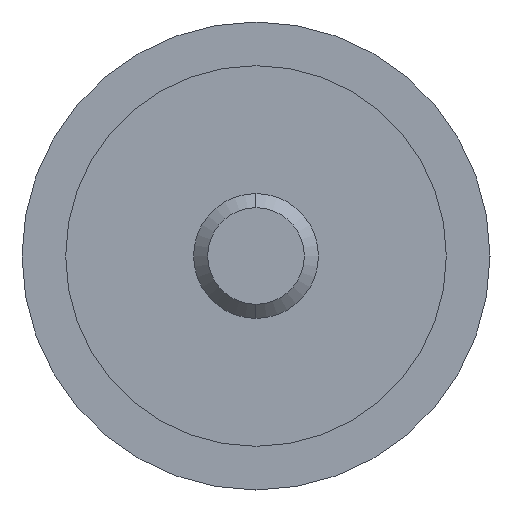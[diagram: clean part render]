
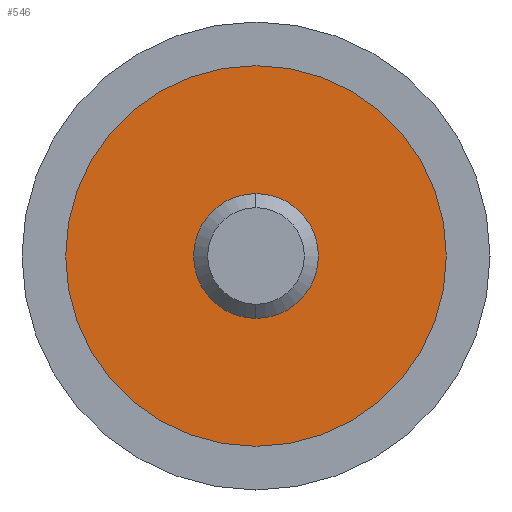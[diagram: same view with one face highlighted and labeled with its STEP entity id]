
A CAD part, left-side view. The second image highlights one B-rep face of the part: STEP entity #546.
In plain terms, the highlighted planar face has unit normal (-1, 0, 0).
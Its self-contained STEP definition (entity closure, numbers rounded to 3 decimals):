
#37 = ORIENTED_EDGE ( 'NONE', *, *, #174, .T. ) ;
#71 = CIRCLE ( 'NONE', #468, 6.1 ) ;
#102 = EDGE_LOOP ( 'NONE', ( #113, #628 ) ) ;
#113 = ORIENTED_EDGE ( 'NONE', *, *, #160, .F. ) ;
#118 = DIRECTION ( 'NONE',  ( 0., 0., 1. ) ) ;
#155 = CARTESIAN_POINT ( 'NONE',  ( -9.99, 0., -6.1 ) ) ;
#160 = EDGE_CURVE ( 'NONE', #415, #306, #660, .T. ) ;
#174 = EDGE_CURVE ( 'NONE', #665, #292, #71, .T. ) ;
#184 = DIRECTION ( 'NONE',  ( 0., 0., 1. ) ) ;
#196 = PLANE ( 'NONE',  #540 ) ;
#213 = EDGE_CURVE ( 'NONE', #306, #415, #647, .T. ) ;
#229 = DIRECTION ( 'NONE',  ( -1., 0., 0. ) ) ;
#245 = DIRECTION ( 'NONE',  ( -1., 0., 0. ) ) ;
#252 = DIRECTION ( 'NONE',  ( 0., 0., -1. ) ) ;
#253 = AXIS2_PLACEMENT_3D ( 'NONE', #509, #245, #252 ) ;
#255 = CIRCLE ( 'NONE', #505, 6.1 ) ;
#292 = VERTEX_POINT ( 'NONE', #365 ) ;
#301 = DIRECTION ( 'NONE',  ( -1., 0., 0. ) ) ;
#306 = VERTEX_POINT ( 'NONE', #417 ) ;
#343 = FACE_BOUND ( 'NONE', #102, .T. ) ;
#345 = DIRECTION ( 'NONE',  ( 0., 0., -1. ) ) ;
#347 = EDGE_LOOP ( 'NONE', ( #519, #37 ) ) ;
#365 = CARTESIAN_POINT ( 'NONE',  ( -9.99, 0., 6.1 ) ) ;
#385 = CARTESIAN_POINT ( 'NONE',  ( -9.99, 0., 0. ) ) ;
#389 = EDGE_CURVE ( 'NONE', #292, #665, #255, .T. ) ;
#402 = FACE_OUTER_BOUND ( 'NONE', #347, .T. ) ;
#413 = DIRECTION ( 'NONE',  ( 0., 0., -1. ) ) ;
#415 = VERTEX_POINT ( 'NONE', #449 ) ;
#417 = CARTESIAN_POINT ( 'NONE',  ( -9.99, 0., -2. ) ) ;
#449 = CARTESIAN_POINT ( 'NONE',  ( -9.99, 0., 2. ) ) ;
#453 = DIRECTION ( 'NONE',  ( -1., 0., 0. ) ) ;
#468 = AXIS2_PLACEMENT_3D ( 'NONE', #605, #301, #184 ) ;
#504 = DIRECTION ( 'NONE',  ( 1., 0., 0. ) ) ;
#505 = AXIS2_PLACEMENT_3D ( 'NONE', #385, #229, #118 ) ;
#509 = CARTESIAN_POINT ( 'NONE',  ( -9.99, 0., 0. ) ) ;
#519 = ORIENTED_EDGE ( 'NONE', *, *, #389, .T. ) ;
#540 = AXIS2_PLACEMENT_3D ( 'NONE', #552, #504, #413 ) ;
#546 = ADVANCED_FACE ( 'NONE', ( #402, #343 ), #196, .F. ) ;
#552 = CARTESIAN_POINT ( 'NONE',  ( -9.99, 6.1, 0. ) ) ;
#566 = AXIS2_PLACEMENT_3D ( 'NONE', #651, #453, #345 ) ;
#605 = CARTESIAN_POINT ( 'NONE',  ( -9.99, 0., 0. ) ) ;
#628 = ORIENTED_EDGE ( 'NONE', *, *, #213, .F. ) ;
#647 = CIRCLE ( 'NONE', #253, 2. ) ;
#651 = CARTESIAN_POINT ( 'NONE',  ( -9.99, 0., 0. ) ) ;
#660 = CIRCLE ( 'NONE', #566, 2. ) ;
#665 = VERTEX_POINT ( 'NONE', #155 ) ;
